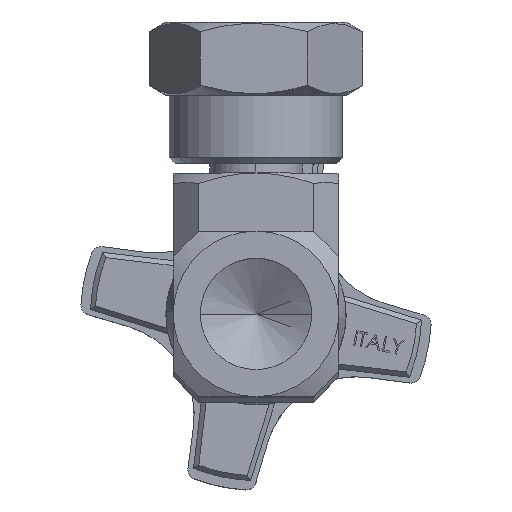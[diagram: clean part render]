
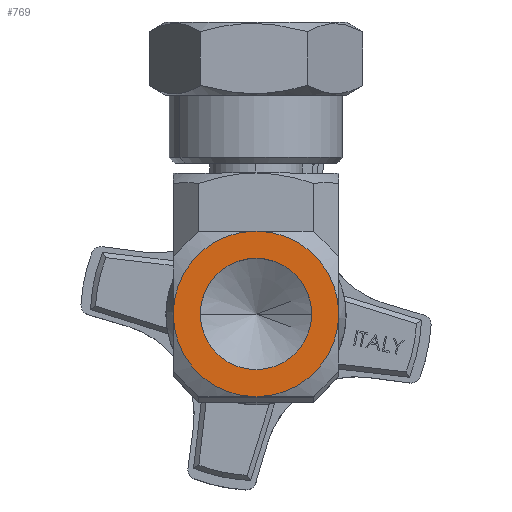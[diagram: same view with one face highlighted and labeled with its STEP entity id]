
A CAD part, top view. The second image highlights one B-rep face of the part: STEP entity #769.
In plain terms, the highlighted planar face has unit normal (0, 0, 1).
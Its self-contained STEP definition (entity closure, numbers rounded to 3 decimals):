
#54 = VERTEX_POINT ( 'NONE', #22637 ) ;
#111 = VERTEX_POINT ( 'NONE', #22538 ) ;
#528 = VERTEX_POINT ( 'NONE', #5307 ) ;
#609 = VERTEX_POINT ( 'NONE', #5365 ) ;
#679 = ORIENTED_EDGE ( 'NONE', *, *, #680, .F. ) ;
#680 = EDGE_CURVE ( 'NONE', #54, #111, #5574, .T. ) ;
#681 = ORIENTED_EDGE ( 'NONE', *, *, #22046, .F. ) ;
#682 = EDGE_LOOP ( 'NONE', ( #683, #684, #685, #686 ) ) ;
#683 = ORIENTED_EDGE ( 'NONE', *, *, #881, .T. ) ;
#684 = ORIENTED_EDGE ( 'NONE', *, *, #768, .T. ) ;
#685 = ORIENTED_EDGE ( 'NONE', *, *, #692, .T. ) ;
#686 = ORIENTED_EDGE ( 'NONE', *, *, #894, .T. ) ;
#692 = EDGE_CURVE ( 'NONE', #762, #609, #5624, .T. ) ;
#704 = VERTEX_POINT ( 'NONE', #5640 ) ;
#762 = VERTEX_POINT ( 'NONE', #12881 ) ;
#768 = EDGE_CURVE ( 'NONE', #528, #762, #12873, .T. ) ;
#769 = ADVANCED_FACE ( 'NONE', ( #12874, #12869 ), #12868, .T. ) ;
#770 = EDGE_LOOP ( 'NONE', ( #679, #681 ) ) ;
#881 = EDGE_CURVE ( 'NONE', #704, #528, #13192, .T. ) ;
#894 = EDGE_CURVE ( 'NONE', #609, #704, #13170, .T. ) ;
#5307 = CARTESIAN_POINT ( 'NONE',  ( 8.5, 0., 0. ) ) ;
#5365 = CARTESIAN_POINT ( 'NONE',  ( -8.5, 0., 0. ) ) ;
#5560 = DIRECTION ( 'NONE',  ( 0., 0., 1. ) ) ;
#5561 = CARTESIAN_POINT ( 'NONE',  ( 0., 0., 0. ) ) ;
#5562 = DIRECTION ( 'NONE',  ( 1., 0., 0. ) ) ;
#5566 = AXIS2_PLACEMENT_3D ( 'NONE', #5561, #5560, #5562 ) ;
#5574 = CIRCLE ( 'NONE', #5566, 5.722 ) ;
#5620 = DIRECTION ( 'NONE',  ( 1., 0., 0. ) ) ;
#5621 = AXIS2_PLACEMENT_3D ( 'NONE', #5622, #5625, #5620 ) ;
#5622 = CARTESIAN_POINT ( 'NONE',  ( 0., 0., 0. ) ) ;
#5624 = CIRCLE ( 'NONE', #5621, 8.5 ) ;
#5625 = DIRECTION ( 'NONE',  ( 0., 0., 1. ) ) ;
#5640 = CARTESIAN_POINT ( 'NONE',  ( 0., -8.5, 0. ) ) ;
#11953 = DIRECTION ( 'NONE',  ( 1., 0., 0. ) ) ;
#11954 = DIRECTION ( 'NONE',  ( 0., 0., 1. ) ) ;
#11965 = AXIS2_PLACEMENT_3D ( 'NONE', #11968, #11954, #11953 ) ;
#11966 = CIRCLE ( 'NONE', #11965, 5.722 ) ;
#11968 = CARTESIAN_POINT ( 'NONE',  ( 0., 0., 0. ) ) ;
#12864 = DIRECTION ( 'NONE',  ( 1., 0., 0. ) ) ;
#12865 = DIRECTION ( 'NONE',  ( 0., 0., 1. ) ) ;
#12866 = CARTESIAN_POINT ( 'NONE',  ( -8.5, -8.5, 0. ) ) ;
#12867 = AXIS2_PLACEMENT_3D ( 'NONE', #12866, #12865, #12864 ) ;
#12868 = PLANE ( 'NONE',  #12867 ) ;
#12869 = FACE_OUTER_BOUND ( 'NONE', #682, .T. ) ;
#12870 = DIRECTION ( 'NONE',  ( 1., 0., 0. ) ) ;
#12871 = DIRECTION ( 'NONE',  ( 0., 0., 1. ) ) ;
#12872 = AXIS2_PLACEMENT_3D ( 'NONE', #12879, #12871, #12870 ) ;
#12873 = CIRCLE ( 'NONE', #12872, 8.5 ) ;
#12874 = FACE_BOUND ( 'NONE', #770, .T. ) ;
#12879 = CARTESIAN_POINT ( 'NONE',  ( 0., 0., 0. ) ) ;
#12881 = CARTESIAN_POINT ( 'NONE',  ( 0., 8.5, 0. ) ) ;
#13131 = DIRECTION ( 'NONE',  ( 1., 0., 0. ) ) ;
#13132 = DIRECTION ( 'NONE',  ( 0., 0., 1. ) ) ;
#13169 = AXIS2_PLACEMENT_3D ( 'NONE', #13175, #13132, #13131 ) ;
#13170 = CIRCLE ( 'NONE', #13169, 8.5 ) ;
#13175 = CARTESIAN_POINT ( 'NONE',  ( 0., 0., 0. ) ) ;
#13188 = DIRECTION ( 'NONE',  ( 1., 0., 0. ) ) ;
#13189 = DIRECTION ( 'NONE',  ( 0., 0., 1. ) ) ;
#13190 = CARTESIAN_POINT ( 'NONE',  ( 0., 0., 0. ) ) ;
#13191 = AXIS2_PLACEMENT_3D ( 'NONE', #13190, #13189, #13188 ) ;
#13192 = CIRCLE ( 'NONE', #13191, 8.5 ) ;
#22046 = EDGE_CURVE ( 'NONE', #111, #54, #11966, .T. ) ;
#22538 = CARTESIAN_POINT ( 'NONE',  ( -5.722, 0., 0. ) ) ;
#22637 = CARTESIAN_POINT ( 'NONE',  ( 5.722, 0., 0. ) ) ;
